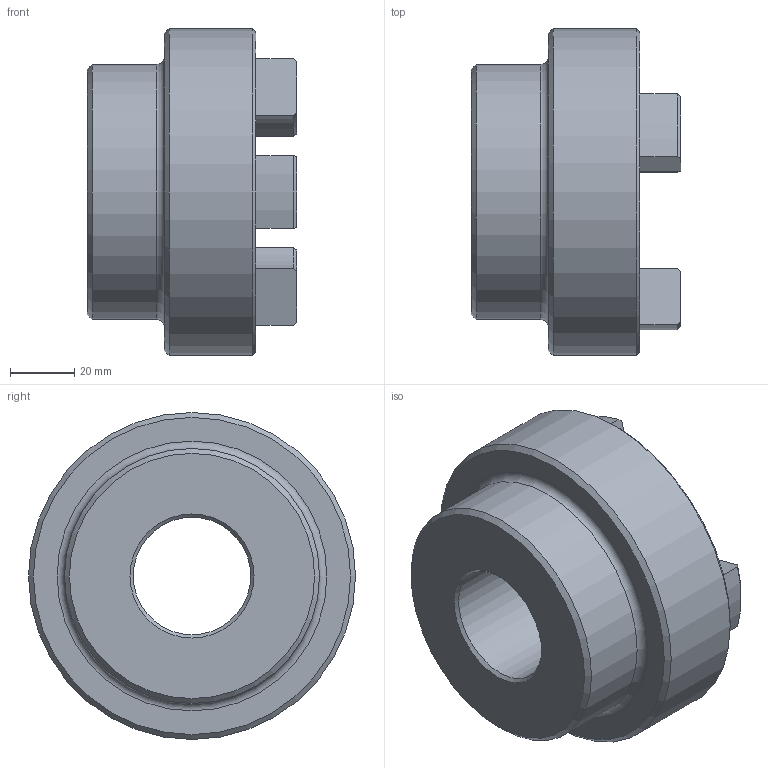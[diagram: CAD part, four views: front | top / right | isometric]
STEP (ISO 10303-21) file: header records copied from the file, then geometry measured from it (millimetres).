
FILE_DESCRIPTION (( 'STEP AP203' ), '1' );
FILE_NAME ('RC4.step', '2024-07-24T17:42:34', ( 'Adlan' ), ( '' ), 'SwSTEP 2.0', 'SolidWorks 2013', '' );
FILE_SCHEMA (( 'CONFIG_CONTROL_DESIGN' ));
Length unit declared in the file: inch
Products named in the file (1): RC4
Bounding box: 65.02 x 101.6 x 101.6 mm (x, y, z)
Volume: 240980 mm3; surface area: 40485.3 mm2
Topology: 1 solids, 1 shells, 60 faces, 146 edges, 90 vertices
Faces by surface type: cylinder 24, plane 13, torus 13, cone 10
Full cylindrical faces by diameter (mm): 36.525 x1, 79.248 x1, 101.6 x1
Entity records: 1841 total; most frequent: CARTESIAN_POINT 341, DIRECTION 324, ORIENTED_EDGE 274, EDGE_CURVE 137, AXIS2_PLACEMENT_3D 132, VERTEX_POINT 89, EDGE_LOOP 72, CIRCLE 71
